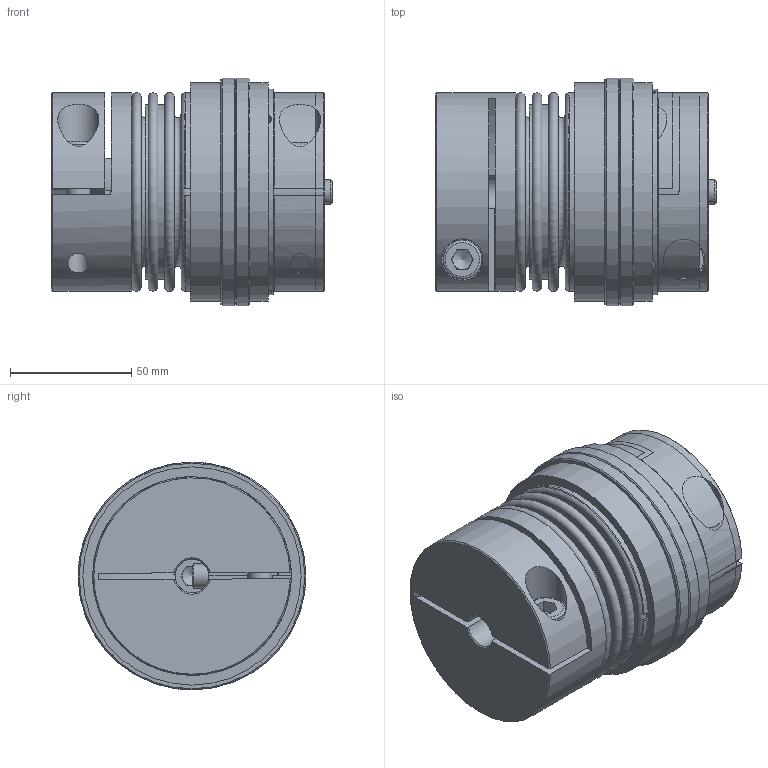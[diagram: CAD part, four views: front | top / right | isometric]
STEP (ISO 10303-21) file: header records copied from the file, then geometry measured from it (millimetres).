
FILE_DESCRIPTION( ( 'Unknown' ), '1' );
FILE_NAME( 'C:/Dokumente und Einstellungen/SKarpstein/Desktop/Korrigierte 3D Modelle/KBK-BKK-150-113.stp', 'Unknown', ( 'Unknown' ), ( 'Unknown' ), 'XStep 1.0', 'Unknown', ' ' );
FILE_SCHEMA( ( 'automotive_design' ) );
Length unit declared in the file: millimetre
Products named in the file (11): Assem1; Assem2; Zylinderschraube DIN 912_1; Stellring 80; Druckring 80; KBK L-K-80 Grundkörper; Klemmnabe 80; Flansch BK150; KN80-150_Standard_6; Socket Head Cap Screw_DIN_DIN 912 M10 x 30 --- 30N_5; BK80-150_Standard_3
Bounding box: 115.8 x 94 x 94 mm (x, y, z)
Volume: 922396.3 mm3; surface area: 317443 mm2
Topology: 19 solids, 19 shells, 385 faces, 828 edges, 547 vertices
Faces by surface type: plane 192, cylinder 98, cone 59, torus 36
Full cylindrical faces by diameter (mm): 3.242 x6, 5 x8, 5.2 x6, 8.376 x2, 8.5 x2, 10 x9, 10.5 x2, 14 x2, 16 x5, 17 x4, 19 x2, 37.5 x2, 40 x4, 42 x2, 48 x2, 52 x2, 62 x4, 70 x2, 70.7 x4, 71.9 x4, 82 x2, 85 x2, 87 x2, 90 x4, 94 x2
Entity records: 5483 total; most frequent: CARTESIAN_POINT 1465, DIRECTION 803, ORIENTED_EDGE 576, AXIS2_PLACEMENT_3D 355, EDGE_LOOP 326, EDGE_CURVE 288, FACE_OUTER_BOUND 246, VERTEX_POINT 235
